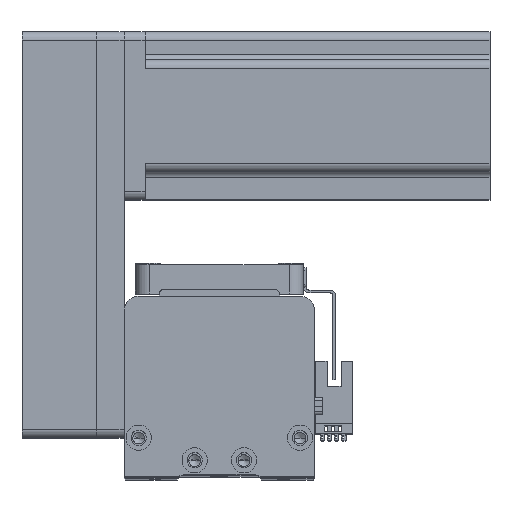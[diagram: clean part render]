
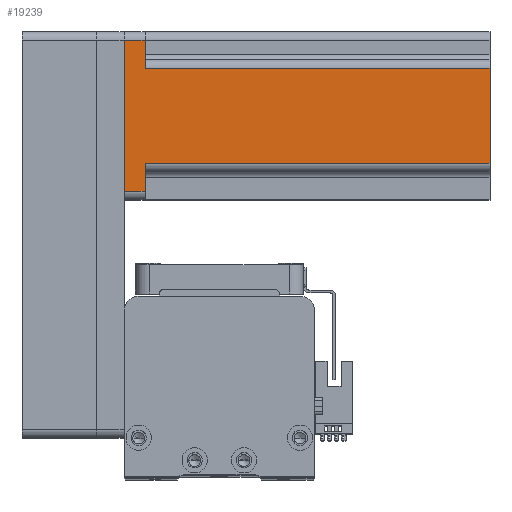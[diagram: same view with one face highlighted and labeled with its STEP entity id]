
A CAD part, top view. The second image highlights one B-rep face of the part: STEP entity #19239.
In plain terms, the highlighted planar face has unit normal (0, 0, 1) as drawn and (0, 1, 0) by its records, which use the part's own axes.
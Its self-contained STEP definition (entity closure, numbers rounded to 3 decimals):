
#1224 = VERTEX_POINT ( 'NONE', #33950 ) ;
#1857 = VECTOR ( 'NONE', #6289, 1000. ) ;
#2200 = CARTESIAN_POINT ( 'NONE',  ( 27., 30., 130.7 ) ) ;
#2262 = VERTEX_POINT ( 'NONE', #33996 ) ;
#2349 = VECTOR ( 'NONE', #28206, 1000. ) ;
#2908 = CARTESIAN_POINT ( 'NONE',  ( 27., 30., 7.5 ) ) ;
#3014 = VECTOR ( 'NONE', #12432, 1000. ) ;
#3225 = CARTESIAN_POINT ( 'NONE',  ( 20., 30., 7.5 ) ) ;
#3464 = LINE ( 'NONE', #3855, #22556 ) ;
#3778 = EDGE_CURVE ( 'NONE', #34617, #34654, #29638, .T. ) ;
#3855 = CARTESIAN_POINT ( 'NONE',  ( 30., 30., 130.7 ) ) ;
#4078 = LINE ( 'NONE', #2200, #3014 ) ;
#5415 = VERTEX_POINT ( 'NONE', #28383 ) ;
#5551 = VECTOR ( 'NONE', #35220, 1000. ) ;
#6289 = DIRECTION ( 'NONE',  ( -1., 0., 0. ) ) ;
#6304 = CARTESIAN_POINT ( 'NONE',  ( -17., 30., 130.7 ) ) ;
#7142 = EDGE_CURVE ( 'NONE', #31698, #34654, #11359, .T. ) ;
#7684 = ORIENTED_EDGE ( 'NONE', *, *, #40299, .T. ) ;
#7870 = CARTESIAN_POINT ( 'NONE',  ( 17., 30., 130.7 ) ) ;
#8145 = CARTESIAN_POINT ( 'NONE',  ( -20., 30., 7.5 ) ) ;
#9735 = DIRECTION ( 'NONE',  ( 0., 0., 1. ) ) ;
#10575 = CARTESIAN_POINT ( 'NONE',  ( 30., 30., 130.7 ) ) ;
#10875 = LINE ( 'NONE', #43388, #1857 ) ;
#10992 = VECTOR ( 'NONE', #27789, 1000. ) ;
#11359 = LINE ( 'NONE', #7870, #2349 ) ;
#11565 = VERTEX_POINT ( 'NONE', #12211 ) ;
#12032 = LINE ( 'NONE', #31092, #10992 ) ;
#12211 = CARTESIAN_POINT ( 'NONE',  ( -17., 30., 7.5 ) ) ;
#12432 = DIRECTION ( 'NONE',  ( 0., 0., -1. ) ) ;
#13963 = DIRECTION ( 'NONE',  ( 1., 0., 0. ) ) ;
#14846 = ORIENTED_EDGE ( 'NONE', *, *, #33176, .T. ) ;
#16391 = CARTESIAN_POINT ( 'NONE',  ( 17., 30., 7.5 ) ) ;
#17284 = PLANE ( 'NONE',  #30328 ) ;
#19239 = ADVANCED_FACE ( 'NONE', ( #31835 ), #17284, .F. ) ;
#20706 = VECTOR ( 'NONE', #30314, 1000. ) ;
#21295 = ORIENTED_EDGE ( 'NONE', *, *, #34623, .T. ) ;
#21404 = ORIENTED_EDGE ( 'NONE', *, *, #7142, .T. ) ;
#22556 = VECTOR ( 'NONE', #24194, 1000. ) ;
#23356 = EDGE_CURVE ( 'NONE', #31698, #27769, #3464, .T. ) ;
#24039 = ORIENTED_EDGE ( 'NONE', *, *, #34122, .T. ) ;
#24194 = DIRECTION ( 'NONE',  ( -1., 0., 0. ) ) ;
#27769 = VERTEX_POINT ( 'NONE', #30688 ) ;
#27789 = DIRECTION ( 'NONE',  ( 0., 0., 1. ) ) ;
#28206 = DIRECTION ( 'NONE',  ( 0., 0., -1. ) ) ;
#28383 = CARTESIAN_POINT ( 'NONE',  ( -27., 30., 7.5 ) ) ;
#29638 = LINE ( 'NONE', #3225, #20706 ) ;
#30314 = DIRECTION ( 'NONE',  ( -1., 0., 0. ) ) ;
#30328 = AXIS2_PLACEMENT_3D ( 'NONE', #10575, #34257, #13963 ) ;
#30495 = ORIENTED_EDGE ( 'NONE', *, *, #3778, .F. ) ;
#30688 = CARTESIAN_POINT ( 'NONE',  ( -17., 30., 130.7 ) ) ;
#31092 = CARTESIAN_POINT ( 'NONE',  ( -27., 30., 130.7 ) ) ;
#31698 = VERTEX_POINT ( 'NONE', #32214 ) ;
#31835 = FACE_OUTER_BOUND ( 'NONE', #38984, .T. ) ;
#32214 = CARTESIAN_POINT ( 'NONE',  ( 17., 30., 130.7 ) ) ;
#33176 = EDGE_CURVE ( 'NONE', #2262, #5415, #12032, .T. ) ;
#33444 = EDGE_CURVE ( 'NONE', #34617, #1224, #4078, .T. ) ;
#33950 = CARTESIAN_POINT ( 'NONE',  ( 27., 30., 0. ) ) ;
#33996 = CARTESIAN_POINT ( 'NONE',  ( -27., 30., 0. ) ) ;
#34122 = EDGE_CURVE ( 'NONE', #1224, #2262, #10875, .T. ) ;
#34257 = DIRECTION ( 'NONE',  ( 0., -1., 0. ) ) ;
#34617 = VERTEX_POINT ( 'NONE', #2908 ) ;
#34623 = EDGE_CURVE ( 'NONE', #11565, #27769, #38795, .T. ) ;
#34654 = VERTEX_POINT ( 'NONE', #16391 ) ;
#35220 = DIRECTION ( 'NONE',  ( 1., 0., 0. ) ) ;
#35673 = ORIENTED_EDGE ( 'NONE', *, *, #33444, .T. ) ;
#38795 = LINE ( 'NONE', #6304, #39872 ) ;
#38984 = EDGE_LOOP ( 'NONE', ( #7684, #21295, #42705, #21404, #30495, #35673, #24039, #14846 ) ) ;
#39872 = VECTOR ( 'NONE', #9735, 1000. ) ;
#40299 = EDGE_CURVE ( 'NONE', #5415, #11565, #41520, .T. ) ;
#41520 = LINE ( 'NONE', #8145, #5551 ) ;
#42705 = ORIENTED_EDGE ( 'NONE', *, *, #23356, .F. ) ;
#43388 = CARTESIAN_POINT ( 'NONE',  ( 30., 30., 0. ) ) ;
